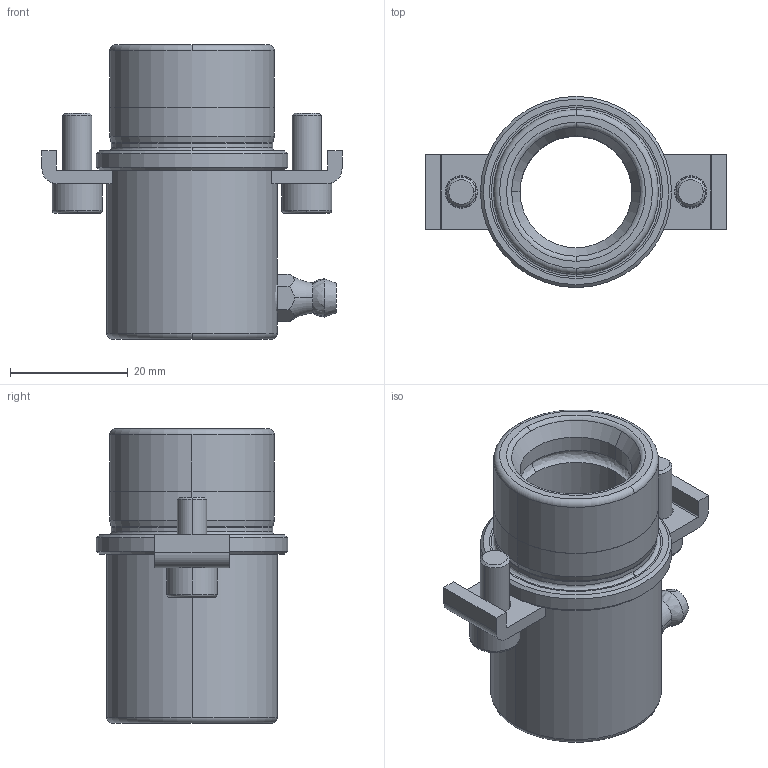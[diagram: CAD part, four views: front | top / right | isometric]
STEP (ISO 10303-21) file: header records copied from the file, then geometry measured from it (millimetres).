
FILE_DESCRIPTION((''),'2;1');
FILE_NAME('B10_019_032.stp','2008-11-04T11:32:57',(''),(''),'Mechanical Desktop 2009','Mechanical Desktop 2009',', , ');
FILE_SCHEMA(('CONFIG_CONTROL_DESIGN'));
Length unit declared in the file: millimetre
Products named in the file (2): Product; blmdl1
Assembly tree (1 placements, depth 2):
  Product
    blmdl1
Bounding box: 51 x 32.5 x 50 mm (x, y, z)
Volume: 19985 mm3; surface area: 10705.8 mm2
Topology: 6 solids, 6 shells, 130 faces, 329 edges, 216 vertices
Faces by surface type: plane 48, cylinder 38, cone 18, torus 14, bspline 12
Entity records: 4936 total; most frequent: CARTESIAN_POINT 1616, DIRECTION 721, ORIENTED_EDGE 650, EDGE_CURVE 325, AXIS2_PLACEMENT_3D 293, VERTEX_POINT 214, CIRCLE 173, EDGE_LOOP 145
